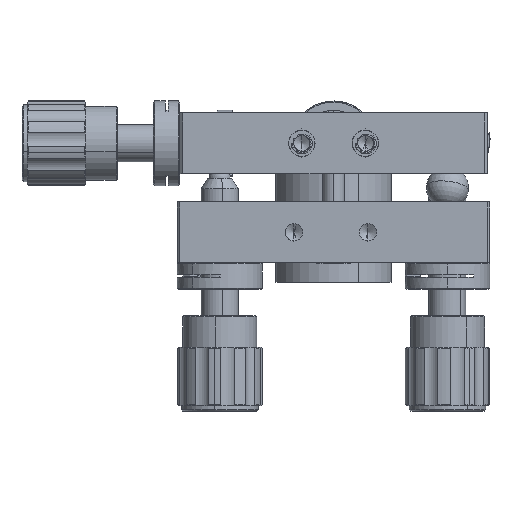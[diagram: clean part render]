
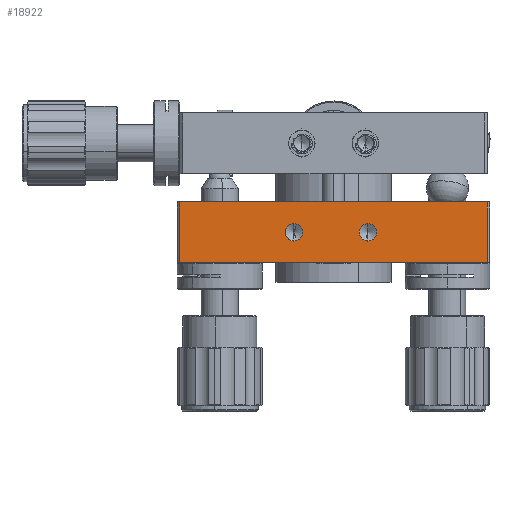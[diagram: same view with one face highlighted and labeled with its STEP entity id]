
A CAD part, left-side view. The second image highlights one B-rep face of the part: STEP entity #18922.
In plain terms, the highlighted planar face has unit normal (-1, 0, 0).
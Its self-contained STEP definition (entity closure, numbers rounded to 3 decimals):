
#137 = CIRCLE ( 'NONE', #51407, 1.65 ) ;
#218 = DIRECTION ( 'NONE',  ( 0., 0., 1. ) ) ;
#731 = CARTESIAN_POINT ( 'NONE',  ( -29.5, 7.5, 0. ) ) ;
#987 = LINE ( 'NONE', #4684, #14255 ) ;
#1076 = DIRECTION ( 'NONE',  ( -1., 0., 0. ) ) ;
#1416 = FACE_OUTER_BOUND ( 'NONE', #2269, .T. ) ;
#1880 = EDGE_CURVE ( 'NONE', #38874, #46638, #50256, .T. ) ;
#2249 = CARTESIAN_POINT ( 'NONE',  ( -29.5, -6.5, 0. ) ) ;
#2269 = EDGE_LOOP ( 'NONE', ( #36297, #23691, #14993, #9796 ) ) ;
#3894 = LINE ( 'NONE', #20210, #36685 ) ;
#4684 = CARTESIAN_POINT ( 'NONE',  ( -29.5, -29., 5.75 ) ) ;
#4890 = CARTESIAN_POINT ( 'NONE',  ( -29.5, 7.5, -1.65 ) ) ;
#5595 = EDGE_LOOP ( 'NONE', ( #10394, #47187 ) ) ;
#6981 = AXIS2_PLACEMENT_3D ( 'NONE', #731, #36553, #218 ) ;
#8046 = CARTESIAN_POINT ( 'NONE',  ( -29.5, 29., -5.75 ) ) ;
#8628 = DIRECTION ( 'NONE',  ( 0., 0., 1. ) ) ;
#9796 = ORIENTED_EDGE ( 'NONE', *, *, #40660, .T. ) ;
#10100 = CARTESIAN_POINT ( 'NONE',  ( -29.5, -6.5, -1.65 ) ) ;
#10359 = ORIENTED_EDGE ( 'NONE', *, *, #35207, .F. ) ;
#10394 = ORIENTED_EDGE ( 'NONE', *, *, #27268, .F. ) ;
#11428 = DIRECTION ( 'NONE',  ( 0., 0., 1. ) ) ;
#12141 = CIRCLE ( 'NONE', #25585, 1.65 ) ;
#12156 = AXIS2_PLACEMENT_3D ( 'NONE', #49862, #49077, #24852 ) ;
#12159 = AXIS2_PLACEMENT_3D ( 'NONE', #37190, #32721, #32991 ) ;
#13232 = LINE ( 'NONE', #41118, #16652 ) ;
#13538 = FACE_BOUND ( 'NONE', #20082, .T. ) ;
#14255 = VECTOR ( 'NONE', #8628, 1000. ) ;
#14374 = VERTEX_POINT ( 'NONE', #10100 ) ;
#14993 = ORIENTED_EDGE ( 'NONE', *, *, #1880, .F. ) ;
#16652 = VECTOR ( 'NONE', #21122, 1000. ) ;
#17317 = CARTESIAN_POINT ( 'NONE',  ( -29.5, -29., -5.75 ) ) ;
#17403 = CARTESIAN_POINT ( 'NONE',  ( -29.5, 7.5, 0. ) ) ;
#18583 = VERTEX_POINT ( 'NONE', #17317 ) ;
#18632 = VERTEX_POINT ( 'NONE', #41534 ) ;
#18922 = ADVANCED_FACE ( 'NONE', ( #13538, #40907, #1416 ), #28809, .F. ) ;
#20082 = EDGE_LOOP ( 'NONE', ( #26221, #10359 ) ) ;
#20210 = CARTESIAN_POINT ( 'NONE',  ( -29.5, 29., 5.75 ) ) ;
#21122 = DIRECTION ( 'NONE',  ( 0., -1., 0. ) ) ;
#21362 = DIRECTION ( 'NONE',  ( 0., 0., 1. ) ) ;
#23691 = ORIENTED_EDGE ( 'NONE', *, *, #24983, .T. ) ;
#24852 = DIRECTION ( 'NONE',  ( 0., 1., 0. ) ) ;
#24983 = EDGE_CURVE ( 'NONE', #18583, #46638, #987, .T. ) ;
#25357 = VERTEX_POINT ( 'NONE', #8046 ) ;
#25585 = AXIS2_PLACEMENT_3D ( 'NONE', #17403, #1076, #21362 ) ;
#26221 = ORIENTED_EDGE ( 'NONE', *, *, #30567, .F. ) ;
#27268 = EDGE_CURVE ( 'NONE', #18632, #14374, #137, .T. ) ;
#28809 = PLANE ( 'NONE',  #12156 ) ;
#30503 = CARTESIAN_POINT ( 'NONE',  ( -29.5, -29.5, 5.75 ) ) ;
#30567 = EDGE_CURVE ( 'NONE', #40414, #32471, #12141, .T. ) ;
#31551 = DIRECTION ( 'NONE',  ( 0., 0., -1. ) ) ;
#32471 = VERTEX_POINT ( 'NONE', #4890 ) ;
#32721 = DIRECTION ( 'NONE',  ( -1., 0., 0. ) ) ;
#32991 = DIRECTION ( 'NONE',  ( 0., 0., 1. ) ) ;
#35207 = EDGE_CURVE ( 'NONE', #32471, #40414, #49865, .T. ) ;
#36297 = ORIENTED_EDGE ( 'NONE', *, *, #47934, .T. ) ;
#36553 = DIRECTION ( 'NONE',  ( -1., 0., 0. ) ) ;
#36685 = VECTOR ( 'NONE', #31551, 1000. ) ;
#37190 = CARTESIAN_POINT ( 'NONE',  ( -29.5, -6.5, 0. ) ) ;
#38874 = VERTEX_POINT ( 'NONE', #51952 ) ;
#39030 = EDGE_CURVE ( 'NONE', #14374, #18632, #44148, .T. ) ;
#39955 = CARTESIAN_POINT ( 'NONE',  ( -29.5, -29., 5.75 ) ) ;
#40414 = VERTEX_POINT ( 'NONE', #44298 ) ;
#40660 = EDGE_CURVE ( 'NONE', #38874, #25357, #3894, .T. ) ;
#40907 = FACE_BOUND ( 'NONE', #5595, .T. ) ;
#41118 = CARTESIAN_POINT ( 'NONE',  ( -29.5, -29.5, -5.75 ) ) ;
#41534 = CARTESIAN_POINT ( 'NONE',  ( -29.5, -6.5, 1.65 ) ) ;
#44148 = CIRCLE ( 'NONE', #12159, 1.65 ) ;
#44298 = CARTESIAN_POINT ( 'NONE',  ( -29.5, 7.5, 1.65 ) ) ;
#45451 = VECTOR ( 'NONE', #46579, 1000. ) ;
#46579 = DIRECTION ( 'NONE',  ( 0., -1., 0. ) ) ;
#46638 = VERTEX_POINT ( 'NONE', #39955 ) ;
#47187 = ORIENTED_EDGE ( 'NONE', *, *, #39030, .F. ) ;
#47934 = EDGE_CURVE ( 'NONE', #25357, #18583, #13232, .T. ) ;
#49077 = DIRECTION ( 'NONE',  ( 1., 0., 0. ) ) ;
#49862 = CARTESIAN_POINT ( 'NONE',  ( -29.5, -29.5, 5.75 ) ) ;
#49865 = CIRCLE ( 'NONE', #6981, 1.65 ) ;
#50256 = LINE ( 'NONE', #30503, #45451 ) ;
#50952 = DIRECTION ( 'NONE',  ( -1., 0., 0. ) ) ;
#51407 = AXIS2_PLACEMENT_3D ( 'NONE', #2249, #50952, #11428 ) ;
#51952 = CARTESIAN_POINT ( 'NONE',  ( -29.5, 29., 5.75 ) ) ;
